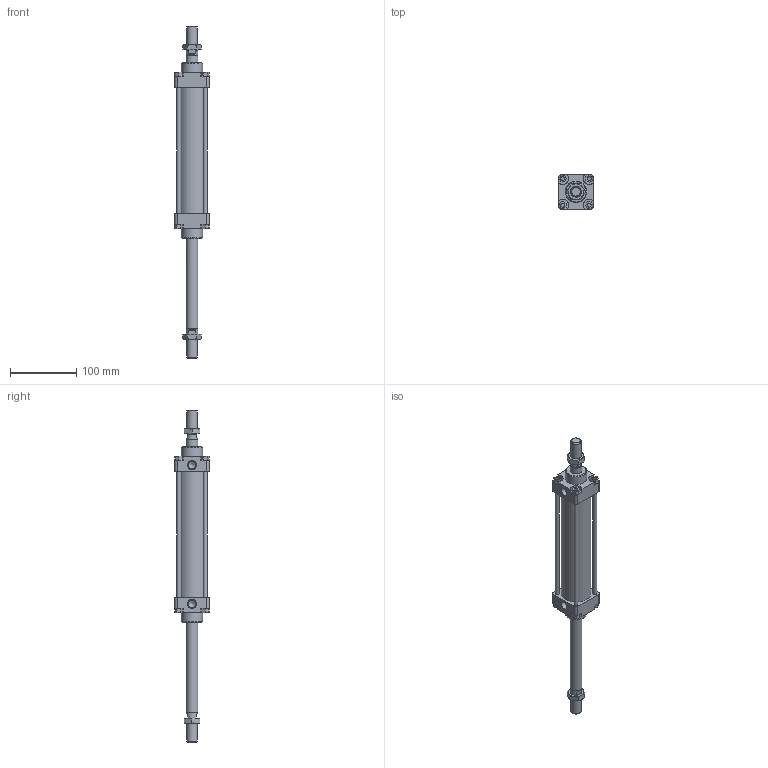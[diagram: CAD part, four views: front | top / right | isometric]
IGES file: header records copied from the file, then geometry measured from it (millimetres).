
Global section: file name: 1303_040_0125_02A; native system: Autodesk Inventor 2014; preprocessor: unknown; author: A. Manieri; date: 20161123.144229; units: millimetre
Bounding box: 52 x 52 x 500 mm (x, y, z)
Volume: 391039.8 mm3; surface area: 135509.4 mm2
Topology: 10 solids, 10 shells, 189 faces, 471 edges, 314 vertices
Faces by surface type: bspline 189
